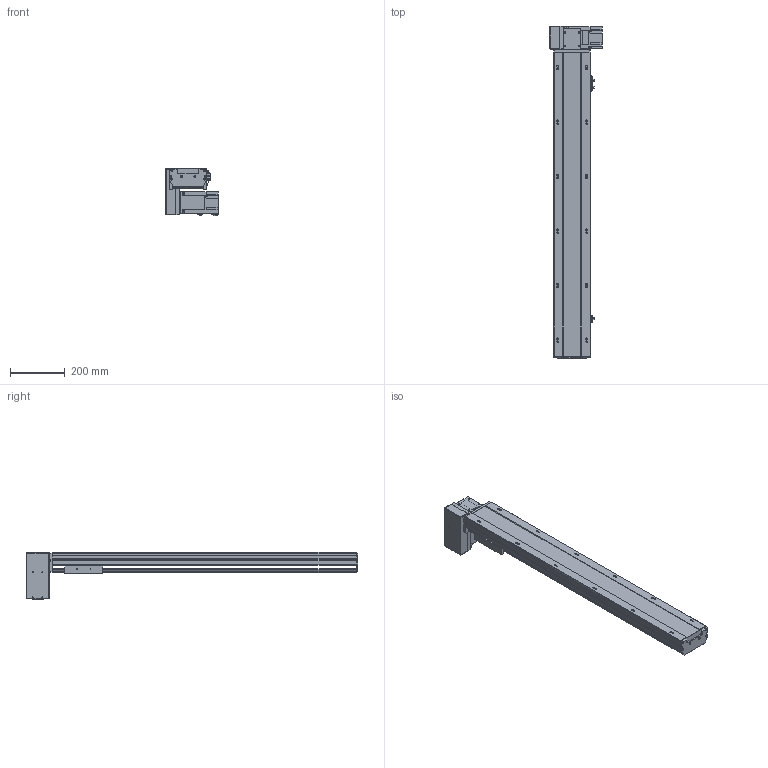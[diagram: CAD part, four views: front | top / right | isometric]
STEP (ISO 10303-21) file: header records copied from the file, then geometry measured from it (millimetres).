
FILE_DESCRIPTION (( 'STEP AP203' ), '1' );
FILE_NAME ('17.STEP', '2020-10-27T10:50:18', ( '' ), ( '' ), 'SwSTEP 2.0', 'SolidWorks 2016', '' );
FILE_SCHEMA (( 'CONFIG_CONTROL_DESIGN' ));
Length unit declared in the file: millimetre
Products named in the file (12): FS-33-T75; FS-08-T75; BTB14-LU-23; BTB14-LU-06; FS-07-T75; BTB14-LU-菁釱; BTB14-LU-01; BTB14-LU-HZ; BTB14-LU-T75; BTB14-LU-04; 17; BTB14-LU-24
Assembly tree (14 placements, depth 2):
  17
    BTB14-LU-菁釱
    BTB14-LU-01
    BTB14-LU-04  x3
    BTB14-LU-06
    BTB14-LU-23  x2
    BTB14-LU-24
    BTB14-LU-HZ
    FS-07-T75
    FS-08-T75
    FS-33-T75
    BTB14-LU-T75
Bounding box: 191.8 x 1218 x 175.5 mm (x, y, z)
Volume: 6110060.5 mm3; surface area: 1245558.9 mm2
Topology: 24 solids, 24 shells, 1774 faces, 4667 edges, 2998 vertices
Faces by surface type: plane 1033, cylinder 482, bspline 127, cone 120, torus 12
Entity records: 52380 total; most frequent: CARTESIAN_POINT 16333, ORIENTED_EDGE 7264, DIRECTION 6970, EDGE_CURVE 3632, VECTOR 2468, LINE 2468, VERTEX_POINT 2376, AXIS2_PLACEMENT_3D 2251
